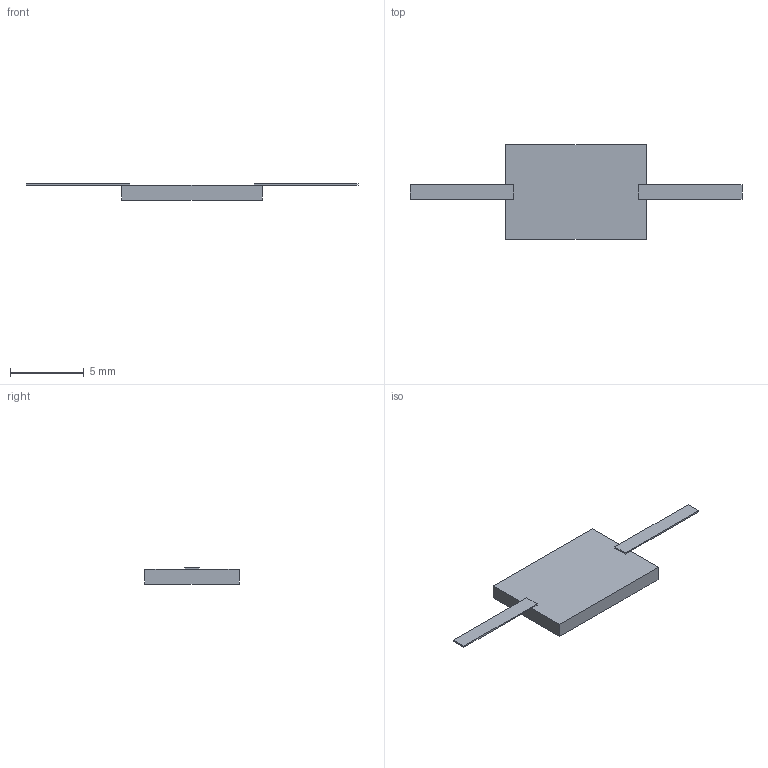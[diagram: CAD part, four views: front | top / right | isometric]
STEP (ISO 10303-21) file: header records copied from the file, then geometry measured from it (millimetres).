
FILE_DESCRIPTION(('STEP AP203'), '1');
FILE_NAME('P1-170-150-38', '', ('UNSPECIFIED'), ('UNSPECIFIED'), 'ASCON STEP Converter 1.6', 'ASCON Math Kernel', '');
FILE_SCHEMA(('CONFIG_CONTROL_DESIGN'));
Length unit declared in the file: millimetre
Bounding box: 22.5 x 6.4 x 1.1 mm (x, y, z)
Volume: 62.2 mm3; surface area: 182.6 mm2
Topology: 1 solids, 1 shells, 18 faces, 44 edges, 28 vertices
Faces by surface type: plane 18
Entity records: 704 total; most frequent: CARTESIAN_POINT 91, ORIENTED_EDGE 88, DIRECTION 82, EDGE_CURVE 44, LINE 44, VECTOR 44, VERTEX_POINT 28, AXIS2_PLACEMENT_3D 19
